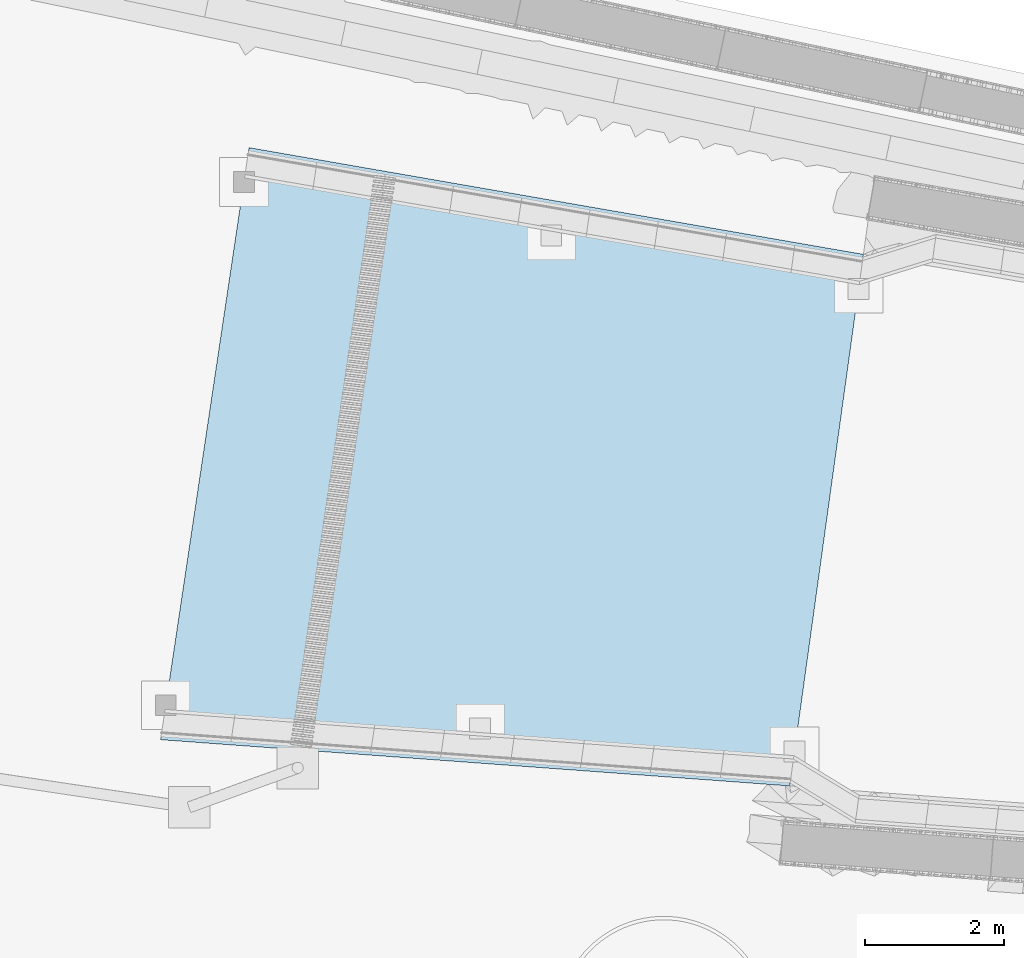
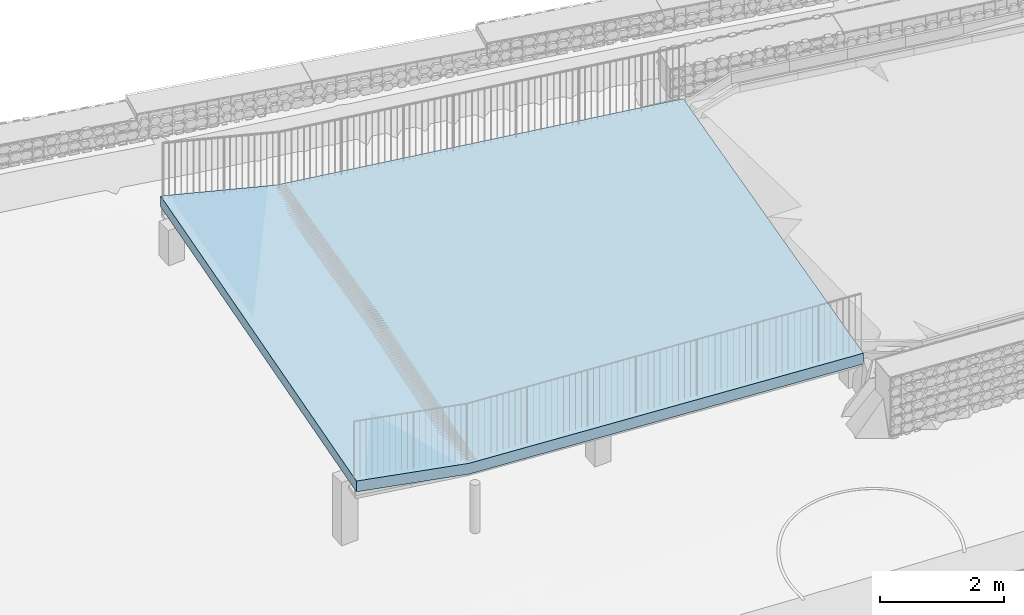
# Not in any storey, part 8 of 45: 1 slab.
"""IFC4 model written with IfcOpenShell, lengths in metres."""

import ifcopenshell
import ifcopenshell.guid

model = None  # the IFC model being written
_history = None  # IfcOwnerHistory: only IFC2X3 demands one
_inside = {}  # id of a spatial element -> (the spatial element, [elements in it])
_under = {}  # id of a project, library or spatial element -> (it, [spatial elements below it])
_declared = {}  # id of a project -> (the project, [libraries it declares])
_typed = {}  # id of a type object -> (the type object, [elements of that type])
_made_of = {}  # id of a material, layer set ... -> (it, [elements and type objects made of it])


def new_model(schema):
    """Start an empty IFC model of exactly this schema.

    Asked for "IFC4X3", IfcOpenShell would pick the latest addendum, in which some entities
    have other attributes; the version numbers below select the first issue.
    IFC2X3 requires an IfcOwnerHistory on every rooted entity: one is made here for all.
    """
    global model, _history
    if schema == "IFC4X3":
        model = ifcopenshell.file(schema_version=(4, 3, 0, 0))
    else:
        model = ifcopenshell.file(schema=schema)
    _inside.clear()
    _under.clear()
    _declared.clear()
    _typed.clear()
    _made_of.clear()
    _history = None
    if model.schema == "IFC2X3":
        org = make("IfcOrganization", Name="unknown")
        user = make(
            "IfcPersonAndOrganization",
            ThePerson=make("IfcPerson", FamilyName="unknown"),
            TheOrganization=org,
        )
        app = make(
            "IfcApplication",
            ApplicationDeveloper=org,
            Version="unknown",
            ApplicationFullName="unknown",
            ApplicationIdentifier="unknown",
        )
        _history = make(
            "IfcOwnerHistory",
            OwningUser=user,
            OwningApplication=app,
            ChangeAction="ADDED",
            CreationDate=0,
        )
    return model


def make(cls, **values):
    """One entity of the class cls with the attributes given. An attribute that is None is left unset."""
    return model.create_entity(
        cls, **{name: value for name, value in values.items() if value is not None}
    )


def rooted(cls, **values):
    """An entity with a GlobalId (a new one), such as an element, a storey or a relation."""
    return make(cls, GlobalId=ifcopenshell.guid.new(), OwnerHistory=_history, **values)


def si_unit(unit_type, name, prefix=None):
    """IfcSIUnit, for example si_unit("LENGTHUNIT", "METRE", prefix="MILLI")."""
    return make("IfcSIUnit", UnitType=unit_type, Prefix=prefix, Name=name)


def assignment(units):
    """IfcUnitAssignment: the units of a project."""
    return None if units is None else make("IfcUnitAssignment", Units=units)


def point(xyz):
    """IfcCartesianPoint."""
    return None if xyz is None else make("IfcCartesianPoint", Coordinates=xyz)


def direction(xyz):
    """IfcDirection."""
    return None if xyz is None else make("IfcDirection", DirectionRatios=xyz)


def frame(location, z_axis=None, x_axis=None):
    """IfcAxis2Placement3D, a coordinate frame: its origin and axes. An axis left out is left unset."""
    return make(
        "IfcAxis2Placement3D",
        Location=point(location),
        Axis=direction(z_axis),
        RefDirection=direction(x_axis),
    )


def origin_with_axes():
    """The frame at (0, 0, 0) with the z axis (0, 0, 1) and the x axis (1, 0, 0) written out."""
    return frame((0.0, 0.0, 0.0), z_axis=(0.0, 0.0, 1.0), x_axis=(1.0, 0.0, 0.0))


def place(relative_to, where):
    """IfcLocalPlacement: puts the frame where relative to a parent placement (None: the world)."""
    return make(
        "IfcLocalPlacement", PlacementRelTo=relative_to, RelativePlacement=where
    )


def context(
    kind, dimensions, precision=None, world=None, true_north=None, identifier=None
):
    """IfcGeometricRepresentationContext, for example the 3D "Model" context."""
    return make(
        "IfcGeometricRepresentationContext",
        ContextIdentifier=identifier,
        ContextType=kind,
        CoordinateSpaceDimension=dimensions,
        Precision=precision,
        WorldCoordinateSystem=world,
        TrueNorth=true_north,
    )


def subcontext(parent, identifier, kind, view, scale=None):
    """IfcGeometricRepresentationSubContext, for example "Body" below "Model"."""
    return make(
        "IfcGeometricRepresentationSubContext",
        ContextIdentifier=identifier,
        ContextType=kind,
        ParentContext=parent,
        TargetScale=scale,
        TargetView=view,
    )


def project(units=None, contexts=None):
    """IfcProject with its units and contexts."""
    return rooted(
        "IfcProject",
        Name="project",
        RepresentationContexts=contexts,
        UnitsInContext=assignment(units),
    )


def spatial(cls, under=None, at=None, **own):
    """A site, building, storey or space (cls), placed at a placement, below another one or the project."""
    s = rooted(cls, ObjectPlacement=at, **own)
    if under is not None:
        _under.setdefault(under.id(), (under, []))[1].append(s)
    return s


def point_list(points):
    """IfcCartesianPointList2D or 3D."""
    cls = (
        "IfcCartesianPointList2D" if len(points[0]) == 2 else "IfcCartesianPointList3D"
    )
    return make(cls, CoordList=points)


def polygons(points, faces, closed=None, point_numbers=None):
    """IfcPolygonalFaceSet: a face is its outer loop, then its inner loops; points numbered from 1."""
    made = []
    for loops in faces:
        if len(loops) == 1:
            made.append(make("IfcIndexedPolygonalFace", CoordIndex=loops[0]))
        else:
            made.append(
                make(
                    "IfcIndexedPolygonalFaceWithVoids",
                    CoordIndex=loops[0],
                    InnerCoordIndices=loops[1:],
                )
            )
    return make(
        "IfcPolygonalFaceSet",
        Coordinates=point_list(points),
        Closed=closed,
        Faces=made,
        PnIndex=point_numbers,
    )


def shape(context_of_items, identifier, shape_type, items):
    """IfcShapeRepresentation: the items that make up one representation, for example the "Body"."""
    return make(
        "IfcShapeRepresentation",
        ContextOfItems=context_of_items,
        RepresentationIdentifier=identifier,
        RepresentationType=shape_type,
        Items=items,
    )


def material(Name=None, Category=None):
    """IfcMaterial."""
    return make("IfcMaterial", Name=Name, Category=Category)


def made_of(thing, what):
    """Note that an element or type object is made of a material, layer set ...; save() writes the relation."""
    if what is not None:
        _made_of.setdefault(what.id(), (what, []))[1].append(thing)
    return thing


def element(
    cls,
    number,
    at=None,
    inside=None,
    cuts=None,
    type_object=None,
    material=None,
    context=None,
    identifier="Body",
    shape_type=None,
    held_by="IfcProductDefinitionShape",
    body=None,
    shapes=None,
    **own,
):
    """One element of the class cls, such as IfcWall. Its Tag is "e" and its number.

    at: its placement. inside: the storey or other place that contains it. cuts: it is an
    opening in that element (IfcRelVoidsElement). A single representation is given by context,
    identifier, shape_type and body (its items); several are given by shapes. held_by: the class
    of the entity that holds the representations. save() writes the other relations.
    """
    e = rooted(cls, Tag="e%d" % number, ObjectPlacement=at, **own)
    if body is not None:
        shapes = [shape(context, identifier, shape_type, body)]
    if shapes is not None:
        e.Representation = make(held_by, Representations=shapes)
    if inside is not None:
        _inside.setdefault(inside.id(), (inside, []))[1].append(e)
    if cuts is not None:
        rooted(
            "IfcRelVoidsElement", RelatingBuildingElement=cuts, RelatedOpeningElement=e
        )
    if type_object is not None:
        _typed.setdefault(type_object.id(), (type_object, []))[1].append(e)
    return made_of(e, material)


def aggregate(whole, parts):
    """IfcRelAggregates: a whole, such as a stair, and the parts it consists of."""
    return rooted("IfcRelAggregates", RelatingObject=whole, RelatedObjects=parts)


def save(model, path):
    """Write the relations noted so far, then the file.

    IfcRelAggregates (storeys below a building ...), IfcRelContainedInSpatialStructure (elements
    in a storey), IfcRelDefinesByType, IfcRelAssociatesMaterial and IfcRelDeclares: one each for
    every whole, place, type object, material and project.
    """
    for whole, parts in _under.values():
        aggregate(whole, parts)
    for where, things in _inside.values():
        rooted(
            "IfcRelContainedInSpatialStructure",
            RelatedElements=things,
            RelatingStructure=where,
        )
    for kind, things in _typed.values():
        rooted("IfcRelDefinesByType", RelatedObjects=things, RelatingType=kind)
    for what, things in _made_of.values():
        rooted("IfcRelAssociatesMaterial", RelatedObjects=things, RelatingMaterial=what)
    for by, libraries in _declared.values():
        rooted("IfcRelDeclares", RelatingContext=by, RelatedDefinitions=libraries)
    model.write(path)


model = new_model("IFC4")

# Units and contexts
model_context = context("Model", 3, precision=1e-05, world=origin_with_axes(), true_north=direction((0.0, 1.0)))
body_context = subcontext(model_context, "Body", "Model", "MODEL_VIEW")
ifc_project = project(units=[si_unit("VOLUMEUNIT", "CUBIC_METRE"), si_unit("LENGTHUNIT", "METRE"), si_unit("AREAUNIT", "SQUARE_METRE")], contexts=[model_context])

# Site
site_placement = place(None, origin_with_axes())
site = spatial("IfcSite", under=ifc_project, at=site_placement, Name="Lares · Rua das Mercês · artigo 4771")

# Slab
ifc_material = material(Name="Betão armado / Stahlbeton", Category="concrete")
slab_placement = place(site_placement, frame((0.0, 0.0, 0.0), z_axis=(0.0, 0.0, 1.0), x_axis=(1.0, -1.03767253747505e-17, 0.0)))
element("IfcSlab", 1, at=slab_placement, inside=site, material=ifc_material, Name="Acesso · laje suspensa sobre o terreno natural", PredefinedType="FLOOR", context=body_context, shape_type="Tessellation", body=[
    polygons([(46.637095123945, 3.2023687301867, 15.54), (46.637095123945, 3.2023687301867, 15.752), (47.9082560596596, 11.7079051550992, 15.54), (47.9082560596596, 11.7079051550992, 15.752), (48.6457129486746, 3.0547069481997, 15.2749738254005), (48.6457129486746, 3.0547069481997, 15.4869738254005), (49.8697096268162, 11.3671683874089, 15.2749738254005), (49.8697096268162, 11.3671683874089, 15.4869738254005), (51.658639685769, 2.8332142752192, 15.281683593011), (51.658639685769, 2.8332142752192, 15.4936835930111), (52.8118899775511, 10.8560632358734, 15.281683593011), (52.8118899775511, 10.8560632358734, 15.4936835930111), (55.6758753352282, 2.5378907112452, 15.2906279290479), (55.6758753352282, 2.5378907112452, 15.5026279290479), (56.7347971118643, 10.1745897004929, 15.2906279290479), (56.7347971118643, 10.1745897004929, 15.5026279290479)], [[[1, 5, 7, 3]], [[2, 4, 8, 6]], [[1, 2, 6, 5]], [[3, 7, 8, 4]], [[5, 9, 11, 7]], [[6, 8, 12, 10]], [[5, 6, 10, 9]], [[7, 11, 12, 8]], [[9, 13, 15, 11]], [[10, 12, 16, 14]], [[9, 10, 14, 13]], [[11, 15, 16, 12]], [[1, 3, 4, 2]], [[13, 14, 16, 15]]]),
])

save(model, "model.ifc")
